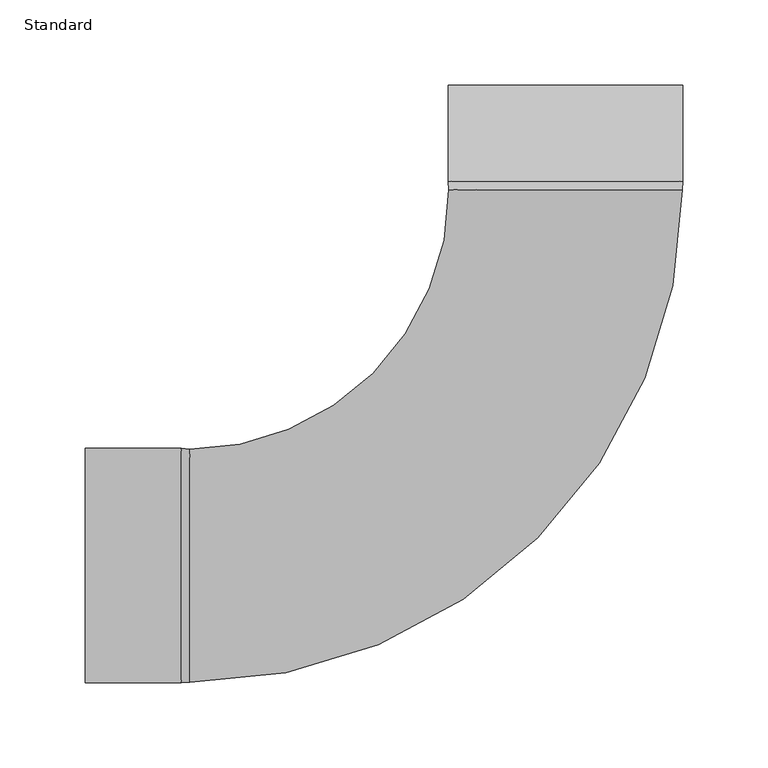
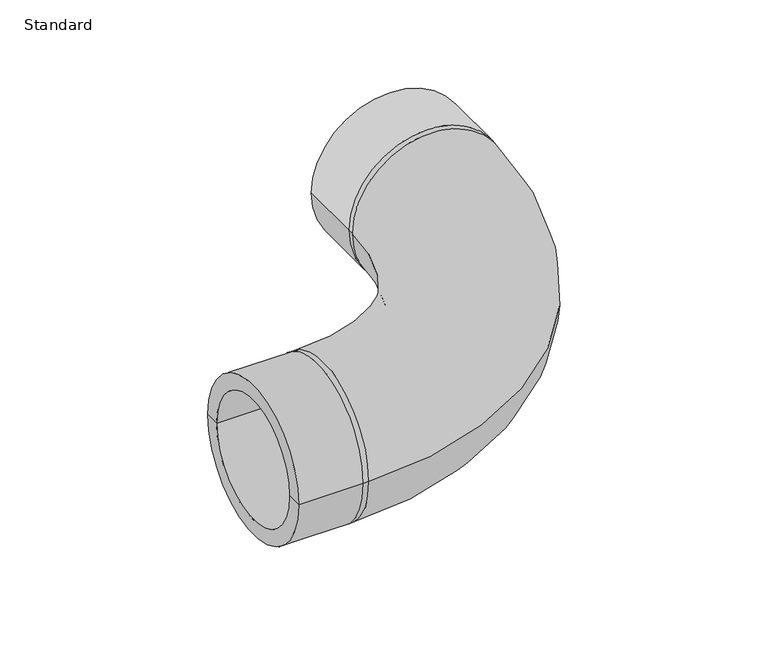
"""IFC4 building model written with IfcOpenShell, lengths in millimetres: pipe fitting geometry, Durapipe_PipeFitting_PVC_SR_Bend90deg : Standard."""

from ifc_helpers import new_model, si_unit, point, frame, origin, place, context, project, spatial, polyline, circle_curve, ellipse_curve, trimmed, source, transform, mapped, element, save
from ifc_brep_helpers import plane_surface, cylinder_surface, revolved_surface, advanced_brep


def standard_313282be(model_context):
    return source(origin(), model_context, "Body", "AdvancedBrep", [
        advanced_brep(
        [(68.5, 225.0, 0.0), (-68.5, 225.0, 0.0), (-68.5, 281.0, 0.0), (68.5, 281.0, 0.0), (68.2, 220.0, 0.0), (-68.2, 220.0, 0.0), (-55.0, 281.0, 0.0), (55.0, 281.0, 0.0), (-220.0, 68.2, 0.0), (-220.0, -68.2, 0.0), (-281.0, -55.0, 0.0), (-281.0, 55.0, 0.0), (-281.0, 68.5, 0.0), (-281.0, -68.5, 0.0), (-225.0, -68.5, 0.0), (-225.0, 68.5, 0.0), (-225.0, -55.0, 0.0), (-225.0, 55.0, 0.0), (-225.0, 0.0, 0.0), (55.0, 225.0, 0.0), (-55.0, 225.0, 0.0), (0.0, 225.0, 0.0)],
        [
            (0, 1, circle_curve(frame((0.0, 225.0, 0.0), z_axis=(0.0, 1.0, 0.0), x_axis=(-1.0, 0.0, 0.0)), 68.5)),
            (1, 2),
            (2, 3, circle_curve(frame((0.0, 281.0, 0.0), z_axis=(0.0, -1.0, 0.0), x_axis=(-1.0, 0.0, 0.0)), 68.5)),
            (3, 0),
            (1, 0, circle_curve(frame((0.0, 225.0, 0.0), z_axis=(0.0, 1.0, 0.0), x_axis=(-1.0, 0.0, 0.0)), 68.5)),
            (3, 2, circle_curve(frame((0.0, 281.0, 0.0), z_axis=(0.0, -1.0, 0.0), x_axis=(-1.0, 0.0, 0.0)), 68.5)),
            (0, 4),
            (4, 5, circle_curve(frame((0.0, 220.0, 0.0), z_axis=(0.0, 1.0, 0.0), x_axis=(-1.0, 0.0, 0.0)), 68.2)),
            (5, 1),
            (5, 4, circle_curve(frame((0.0, 220.0, 0.0), z_axis=(0.0, 1.0, 0.0), x_axis=(-1.0, 0.0, 0.0)), 68.2)),
            (2, 6),
            (6, 7, circle_curve(frame((0.0, 281.0, 0.0), z_axis=(0.0, -1.0, 0.0), x_axis=(-1.0, 0.0, 0.0)), 55.0)),
            (7, 3),
            (7, 6, circle_curve(frame((0.0, 281.0, 0.0), z_axis=(0.0, -1.0, 0.0), x_axis=(-1.0, 0.0, 0.0)), 55.0)),
            (5, 8, circle_curve(frame((-220.0, 220.0, 0.0), z_axis=(0.0, 0.0, -1.0), x_axis=(0.0, -1.0, 0.0)), 151.8)),
            (8, 9, circle_curve(frame((-220.0, 0.0, 0.0), z_axis=(1.0, 0.0, 0.0), x_axis=(0.0, 1.0, 0.0)), 68.2)),
            (9, 4, circle_curve(frame((-220.0, 220.0, 0.0), z_axis=(0.0, 0.0, 1.0), x_axis=(0.0, -1.0, 0.0)), 288.2)),
            (9, 8, circle_curve(frame((-220.0, 0.0, 0.0), z_axis=(1.0, 0.0, 0.0), x_axis=(0.0, 1.0, 0.0)), 68.2)),
            (10, 11, circle_curve(frame((-281.0, 0.0, 0.0), z_axis=(1.0, 0.0, 0.0), x_axis=(0.0, 1.0, 0.0)), 55.0)),
            (11, 12),
            (12, 13, circle_curve(frame((-281.0, 0.0, 0.0), z_axis=(-1.0, 0.0, 0.0), x_axis=(0.0, 1.0, 0.0)), 68.5)),
            (13, 10),
            (11, 10, circle_curve(frame((-281.0, 0.0, 0.0), z_axis=(1.0, 0.0, 0.0), x_axis=(0.0, 1.0, 0.0)), 55.0)),
            (13, 12, circle_curve(frame((-281.0, 0.0, 0.0), z_axis=(-1.0, 0.0, 0.0), x_axis=(0.0, 1.0, 0.0)), 68.5)),
            (14, 15, circle_curve(frame((-225.0, 0.0, 0.0), z_axis=(1.0, 0.0, 0.0), x_axis=(0.0, 1.0, 0.0)), 68.5)),
            (15, 8),
            (9, 14),
            (15, 14, circle_curve(frame((-225.0, 0.0, 0.0), z_axis=(1.0, 0.0, 0.0), x_axis=(0.0, 1.0, 0.0)), 68.5)),
            (12, 15),
            (14, 13),
            (10, 16),
            (16, 17, circle_curve(frame((-225.0, 0.0, 0.0), z_axis=(1.0, 0.0, 0.0), x_axis=(0.0, 1.0, 0.0)), 55.0)),
            (17, 11),
            (17, 16, circle_curve(frame((-225.0, 0.0, 0.0), z_axis=(1.0, 0.0, 0.0), x_axis=(0.0, 1.0, 0.0)), 55.0)),
            (16, 18),
            (18, 17),
            (19, 20, circle_curve(frame((0.0, 225.0, 0.0), z_axis=(0.0, 1.0, 0.0), x_axis=(-1.0, 0.0, 0.0)), 55.0)),
            (20, 21),
            (21, 19),
            (20, 19, circle_curve(frame((0.0, 225.0, 0.0), z_axis=(0.0, 1.0, 0.0), x_axis=(-1.0, 0.0, 0.0)), 55.0)),
            (6, 20),
            (19, 7),
        ],
        [
            cylinder_surface(frame((0.0, 2224.0, 0.0), z_axis=(0.0, -1.0, 0.0), x_axis=(-1.0, 0.0, 0.0)), 68.5),
            revolved_surface(polyline([(-68.5, 225.0, 0.0), (-68.2, 220.0, 0.0)]), (0.0, 2224.0, 0.0), (0.0, -1.0, 0.0)),
            plane_surface(frame((0.0, 281.0, 0.0), z_axis=(0.0, 1.0, 0.0), x_axis=(-1.0, 0.0, 0.0))),
            revolved_surface(trimmed(ellipse_curve(frame((-220.0, 0.0, 0.0), z_axis=(-1.0, 0.0, 0.0), x_axis=(0.0, 1.0, 0.0)), 68.2, 68.2), [point((-220.0, -68.2, 0.0))], [point((-220.0, 68.2, 0.0))], True, "CARTESIAN"), (-220.0, 220.0, 0.0), (0.0, 0.0, 1.0)),
            revolved_surface(trimmed(ellipse_curve(frame((-220.0, 0.0, 0.0), z_axis=(-1.0, 0.0, 0.0), x_axis=(0.0, 1.0, 0.0)), 68.2, 68.2), [point((-220.0, 68.2, 0.0))], [point((-220.0, -68.2, 0.0))], True, "CARTESIAN"), (-220.0, 220.0, 0.0), (0.0, 0.0, 1.0)),
            plane_surface(frame((-281.0, 0.0, 0.0), z_axis=(-1.0, 0.0, 0.0), x_axis=(0.0, 1.0, 0.0))),
            revolved_surface(polyline([(-220.0, 68.2, 0.0), (-225.0, 68.5, 0.0)]), (2055.5, 0.0, 0.0), (-1.0, 0.0, 0.0)),
            cylinder_surface(frame((2055.5, 0.0, 0.0), z_axis=(-1.0, 0.0, 0.0), x_axis=(0.0, 1.0, 0.0)), 68.5),
            revolved_surface(polyline([(-281.0, 55.0, 0.0), (-225.0, 55.0, 0.0)]), (2055.5, 0.0, 0.0), (-1.0, 0.0, 0.0)),
            plane_surface(frame((-225.0, 0.0, 0.0), z_axis=(-1.0, 0.0, 0.0), x_axis=(0.0, 1.0, 0.0))),
            plane_surface(frame((0.0, 225.0, 0.0), z_axis=(0.0, 1.0, 0.0), x_axis=(-1.0, 0.0, 0.0))),
            revolved_surface(polyline([(-55.0, 225.0, 0.0), (-55.0, 281.0, 0.0)]), (0.0, 2224.0, 0.0), (0.0, -1.0, 0.0)),
        ],
        [
            (0, [[1, 2, 3, 4]]),
            (0, [[-2, 5, -4, 6]]),
            (1, [[-1, 7, 8, 9]]),
            (1, [[-5, -9, 10, -7]]),
            (2, [[-3, 11, 12, 13]]),
            (2, [[-6, -13, 14, -11]]),
            (3, [[15, 16, 17, -10]]),
            (4, [[-15, -8, -17, 18]]),
            (5, [[19, 20, 21, 22]]),
            (5, [[-20, 23, -22, 24]]),
            (6, [[25, 26, -18, 27]]),
            (6, [[-26, 28, -27, -16]]),
            (7, [[-21, 29, -25, 30]]),
            (7, [[-24, -30, -28, -29]]),
            (8, [[-19, 31, 32, 33]]),
            (8, [[-23, -33, 34, -31]]),
            (9, [[-32, 35, 36]]),
            (9, [[-34, -36, -35]]),
            (10, [[37, 38, 39]]),
            (10, [[-38, 40, -39]]),
            (11, [[-12, 41, -37, 42]]),
            (11, [[-14, -42, -40, -41]]),
        ],
    ),
    ])


if __name__ == "__main__":
    model = new_model("IFC4")
    model_context = context("Model", 3, world=origin())
    ifc_project = project(units=[si_unit("LENGTHUNIT", "METRE", prefix="MILLI")], contexts=[model_context])
    site = spatial("IfcSite", under=ifc_project)
    building = spatial("IfcBuilding", under=site)
    placement = place(None, origin())
    standard_shape = standard_313282be(model_context)
    element("IfcPipeFitting", 1, ObjectType="Durapipe_PipeFitting_PVC_SR_Bend90deg : Standard", at=placement, inside=building, context=model_context, shape_type="MappedRepresentation", body=[
        mapped(standard_shape, transform((0.0, 0.0, 0.0), x_axis=(1.0, 0.0, 0.0), y_axis=(0.0, 1.0, 0.0), z_axis=(0.0, 0.0, 1.0))),
    ])
    save(model, "model.ifc")
